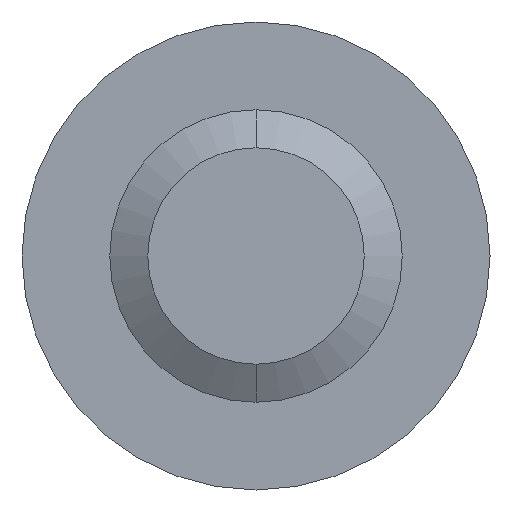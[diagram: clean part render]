
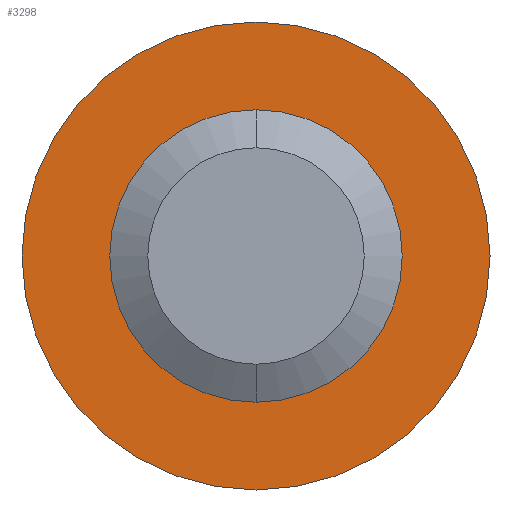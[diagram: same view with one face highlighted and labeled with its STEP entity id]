
A CAD part, front view. The second image highlights one B-rep face of the part: STEP entity #3298.
In plain terms, the highlighted planar face has unit normal (0, -1, 0).
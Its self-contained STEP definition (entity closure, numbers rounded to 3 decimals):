
#54 = VERTEX_POINT ( 'NONE', #1070 ) ;
#146 = CIRCLE ( 'NONE', #1775, 8. ) ;
#282 = FACE_BOUND ( 'NONE', #2699, .T. ) ;
#434 = ORIENTED_EDGE ( 'NONE', *, *, #1230, .T. ) ;
#469 = ORIENTED_EDGE ( 'NONE', *, *, #937, .F. ) ;
#558 = CARTESIAN_POINT ( 'NONE',  ( 0., 40., 0. ) ) ;
#564 = EDGE_LOOP ( 'NONE', ( #469, #3083 ) ) ;
#707 = AXIS2_PLACEMENT_3D ( 'NONE', #858, #2435, #799 ) ;
#752 = AXIS2_PLACEMENT_3D ( 'NONE', #2063, #1529, #2600 ) ;
#759 = VERTEX_POINT ( 'NONE', #2997 ) ;
#799 = DIRECTION ( 'NONE',  ( 0., 0., 1. ) ) ;
#858 = CARTESIAN_POINT ( 'NONE',  ( 0., 40., 0. ) ) ;
#909 = CARTESIAN_POINT ( 'NONE',  ( 0., 40., -8. ) ) ;
#921 = AXIS2_PLACEMENT_3D ( 'NONE', #2248, #947, #1697 ) ;
#937 = EDGE_CURVE ( 'NONE', #1753, #1251, #146, .T. ) ;
#947 = DIRECTION ( 'NONE',  ( 0., 1., 0. ) ) ;
#1070 = CARTESIAN_POINT ( 'NONE',  ( 0., 40., 5. ) ) ;
#1221 = DIRECTION ( 'NONE',  ( 0., 0., 1. ) ) ;
#1230 = EDGE_CURVE ( 'NONE', #759, #54, #3205, .T. ) ;
#1251 = VERTEX_POINT ( 'NONE', #1913 ) ;
#1529 = DIRECTION ( 'NONE',  ( 0., 1., 0. ) ) ;
#1556 = CARTESIAN_POINT ( 'NONE',  ( 0., 40., 0. ) ) ;
#1697 = DIRECTION ( 'NONE',  ( 0., 0., 1. ) ) ;
#1753 = VERTEX_POINT ( 'NONE', #909 ) ;
#1775 = AXIS2_PLACEMENT_3D ( 'NONE', #1556, #2575, #1221 ) ;
#1913 = CARTESIAN_POINT ( 'NONE',  ( 0., 40., 8. ) ) ;
#2063 = CARTESIAN_POINT ( 'NONE',  ( 0., 40., 0. ) ) ;
#2175 = FACE_OUTER_BOUND ( 'NONE', #564, .T. ) ;
#2210 = AXIS2_PLACEMENT_3D ( 'NONE', #558, #3247, #2682 ) ;
#2248 = CARTESIAN_POINT ( 'NONE',  ( 0., 40., 0. ) ) ;
#2363 = EDGE_CURVE ( 'NONE', #54, #759, #2822, .T. ) ;
#2435 = DIRECTION ( 'NONE',  ( 0., 1., 0. ) ) ;
#2575 = DIRECTION ( 'NONE',  ( 0., 1., 0. ) ) ;
#2600 = DIRECTION ( 'NONE',  ( 0., 0., 1. ) ) ;
#2682 = DIRECTION ( 'NONE',  ( 0., 0., 1. ) ) ;
#2699 = EDGE_LOOP ( 'NONE', ( #434, #3023 ) ) ;
#2822 = CIRCLE ( 'NONE', #921, 5. ) ;
#2997 = CARTESIAN_POINT ( 'NONE',  ( 0., 40., -5. ) ) ;
#3000 = PLANE ( 'NONE',  #707 ) ;
#3023 = ORIENTED_EDGE ( 'NONE', *, *, #2363, .T. ) ;
#3083 = ORIENTED_EDGE ( 'NONE', *, *, #3092, .F. ) ;
#3092 = EDGE_CURVE ( 'NONE', #1251, #1753, #3385, .T. ) ;
#3205 = CIRCLE ( 'NONE', #2210, 5. ) ;
#3247 = DIRECTION ( 'NONE',  ( 0., 1., 0. ) ) ;
#3298 = ADVANCED_FACE ( 'NONE', ( #2175, #282 ), #3000, .F. ) ;
#3385 = CIRCLE ( 'NONE', #752, 8. ) ;
